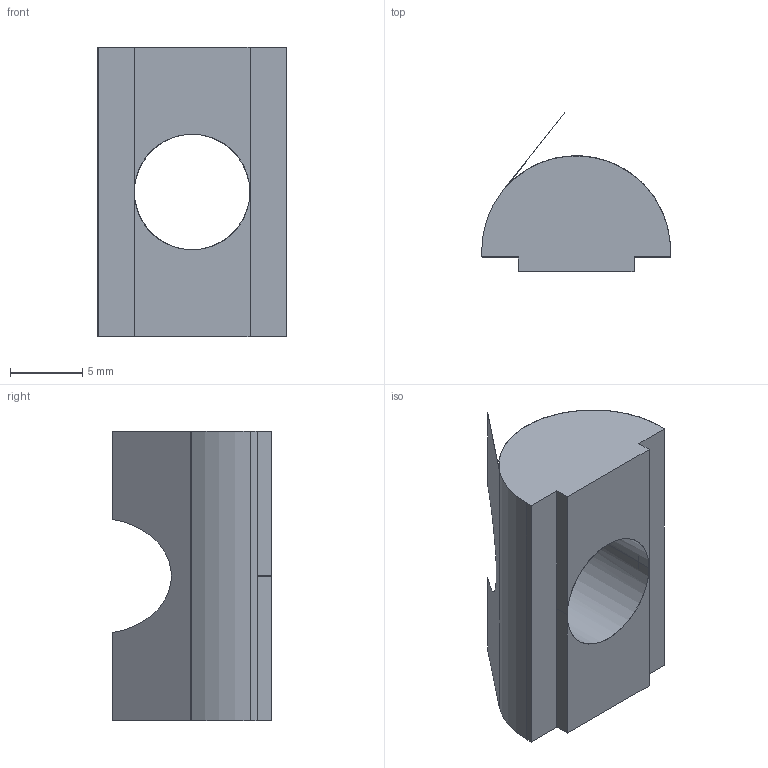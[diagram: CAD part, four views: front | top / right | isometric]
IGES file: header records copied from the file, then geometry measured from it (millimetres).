
Start section: SolidWorks IGES file using analytic representation for surfaces
Global section: file name: C:\Documents and Settings\URETIM3\Desktop\yeni katalog tolgay düzenli\C kataloðu\yaylý somunlar\766 010 014.IGS; native system: SolidWorks 2006 by SolidWorks Corporation; preprocessor: SolidWorks 2006 by SolidWorks Corporation; author: URETIM3; date: 060912.112507; units: millimetre
Bounding box: 13.02 x 11.01 x 20 mm (x, y, z)
Surface area: 1184.3 mm2 (no closed solid volume)
Topology: 0 solids, 0 shells, 18 faces, 284 edges, 284 vertices
Faces by surface type: bspline 11, revolution 7
